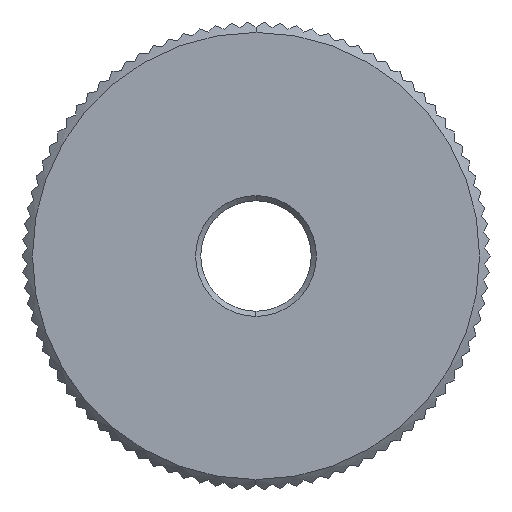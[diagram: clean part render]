
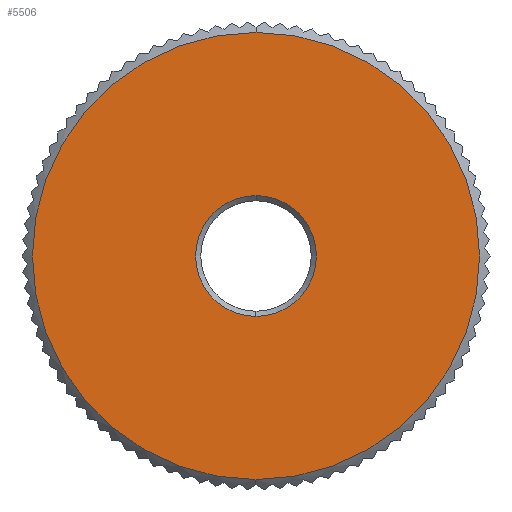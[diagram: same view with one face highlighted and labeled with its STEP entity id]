
A CAD part, left-side view. The second image highlights one B-rep face of the part: STEP entity #5506.
In plain terms, the highlighted planar face has unit normal (-1, 0, 0).
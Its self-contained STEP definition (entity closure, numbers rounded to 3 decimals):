
#1644 = DIRECTION ( 'NONE',  ( 0., 0., -1. ) ) ;
#1645 = DIRECTION ( 'NONE',  ( -1., 0., 0. ) ) ;
#1646 = CARTESIAN_POINT ( 'NONE',  ( -8., 0., 0. ) ) ;
#1647 = AXIS2_PLACEMENT_3D ( 'NONE', #1646, #1645, #1644 ) ;
#1648 = CIRCLE ( 'NONE', #1647, 17.2 ) ;
#1653 = CARTESIAN_POINT ( 'NONE',  ( -8., 0., 17.2 ) ) ;
#1662 = CARTESIAN_POINT ( 'NONE',  ( -8., 0., -17.2 ) ) ;
#2610 = DIRECTION ( 'NONE',  ( 0., 0., -1. ) ) ;
#2611 = DIRECTION ( 'NONE',  ( 1., 0., 0. ) ) ;
#2613 = CARTESIAN_POINT ( 'NONE',  ( -8., 0., 0. ) ) ;
#2614 = AXIS2_PLACEMENT_3D ( 'NONE', #2613, #2611, #2610 ) ;
#2615 = PLANE ( 'NONE',  #2614 ) ;
#2616 = FACE_OUTER_BOUND ( 'NONE', #5559, .T. ) ;
#2617 = FACE_BOUND ( 'NONE', #5507, .T. ) ;
#2702 = DIRECTION ( 'NONE',  ( 0., 0., -1. ) ) ;
#2703 = DIRECTION ( 'NONE',  ( 1., 0., 0. ) ) ;
#2704 = CARTESIAN_POINT ( 'NONE',  ( -8., 0., 0. ) ) ;
#2705 = AXIS2_PLACEMENT_3D ( 'NONE', #2704, #2703, #2702 ) ;
#2706 = CIRCLE ( 'NONE', #2705, 4.65 ) ;
#2708 = DIRECTION ( 'NONE',  ( 0., 0., -1. ) ) ;
#2709 = DIRECTION ( 'NONE',  ( -1., 0., 0. ) ) ;
#2710 = CARTESIAN_POINT ( 'NONE',  ( -8., 0., 0. ) ) ;
#2711 = AXIS2_PLACEMENT_3D ( 'NONE', #2710, #2709, #2708 ) ;
#2712 = CIRCLE ( 'NONE', #2711, 17.2 ) ;
#3124 = CARTESIAN_POINT ( 'NONE',  ( -8., 0., 0. ) ) ;
#3125 = AXIS2_PLACEMENT_3D ( 'NONE', #3124, #3177, #3176 ) ;
#3126 = CIRCLE ( 'NONE', #3125, 4.65 ) ;
#3175 = CARTESIAN_POINT ( 'NONE',  ( -8., 0., 4.65 ) ) ;
#3176 = DIRECTION ( 'NONE',  ( 0., 0., -1. ) ) ;
#3177 = DIRECTION ( 'NONE',  ( 1., 0., 0. ) ) ;
#3506 = VERTEX_POINT ( 'NONE', #5970 ) ;
#4937 = VERTEX_POINT ( 'NONE', #1662 ) ;
#4943 = VERTEX_POINT ( 'NONE', #1653 ) ;
#4946 = EDGE_CURVE ( 'NONE', #4943, #4937, #1648, .T. ) ;
#5506 = ADVANCED_FACE ( 'NONE', ( #2617, #2616 ), #2615, .F. ) ;
#5507 = EDGE_LOOP ( 'NONE', ( #5508, #5561 ) ) ;
#5508 = ORIENTED_EDGE ( 'NONE', *, *, #5790, .T. ) ;
#5551 = ORIENTED_EDGE ( 'NONE', *, *, #4946, .T. ) ;
#5556 = EDGE_CURVE ( 'NONE', #4937, #4943, #2712, .T. ) ;
#5557 = EDGE_CURVE ( 'NONE', #3506, #5791, #2706, .T. ) ;
#5559 = EDGE_LOOP ( 'NONE', ( #5560, #5551 ) ) ;
#5560 = ORIENTED_EDGE ( 'NONE', *, *, #5556, .T. ) ;
#5561 = ORIENTED_EDGE ( 'NONE', *, *, #5557, .T. ) ;
#5790 = EDGE_CURVE ( 'NONE', #5791, #3506, #3126, .T. ) ;
#5791 = VERTEX_POINT ( 'NONE', #3175 ) ;
#5970 = CARTESIAN_POINT ( 'NONE',  ( -8., 0., -4.65 ) ) ;
